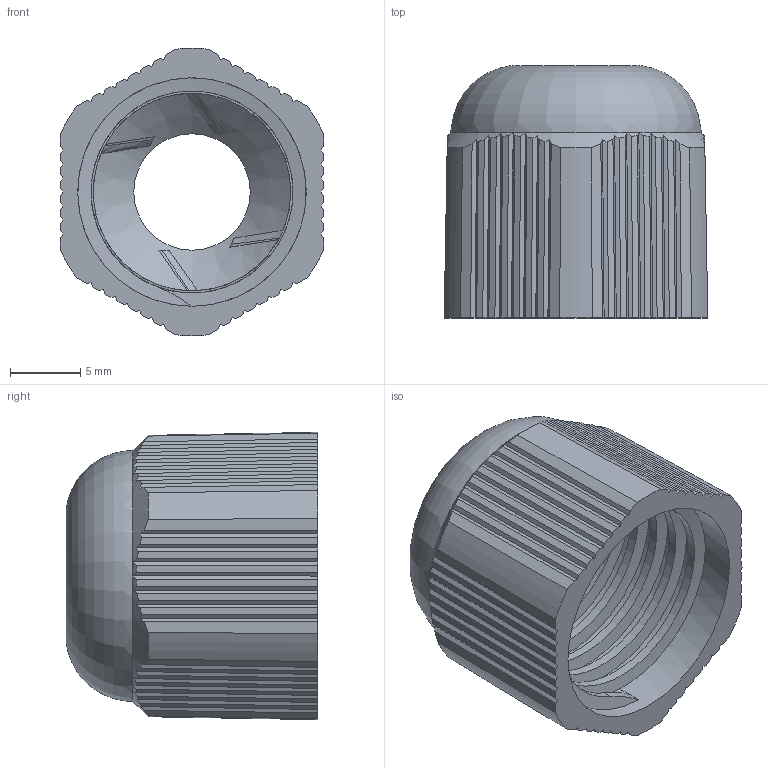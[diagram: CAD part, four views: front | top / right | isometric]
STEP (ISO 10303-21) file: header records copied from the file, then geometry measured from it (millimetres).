
FILE_DESCRIPTION (( 'STEP AP203' ), '1' );
FILE_NAME ('Ãàéêà öàíãîâàÿ (PG9).STEP', '2020-08-06T09:26:32', ( '' ), ( '' ), 'SwSTEP 2.0', 'SolidWorks 2019', '' );
FILE_SCHEMA (( 'CONFIG_CONTROL_DESIGN' ));
Length unit declared in the file: millimetre
Products named in the file (1): Ãàéêà öàíãîâàÿ (PG9)
Bounding box: 18.8 x 17.97 x 20.49 mm (x, y, z)
Volume: 1902.2 mm3; surface area: 2620.6 mm2
Topology: 1 solids, 1 shells, 174 faces, 510 edges, 338 vertices
Faces by surface type: plane 143, cone 12, cylinder 10, bspline 7, torus 2
Full cylindrical faces by diameter (mm): 8.3 x1, 14.1 x1, 16.3 x5
Entity records: 7109 total; most frequent: CARTESIAN_POINT 2967, ORIENTED_EDGE 970, DIRECTION 653, EDGE_CURVE 485, VERTEX_POINT 325, VECTOR 271, LINE 271, AXIS2_PLACEMENT_3D 191
